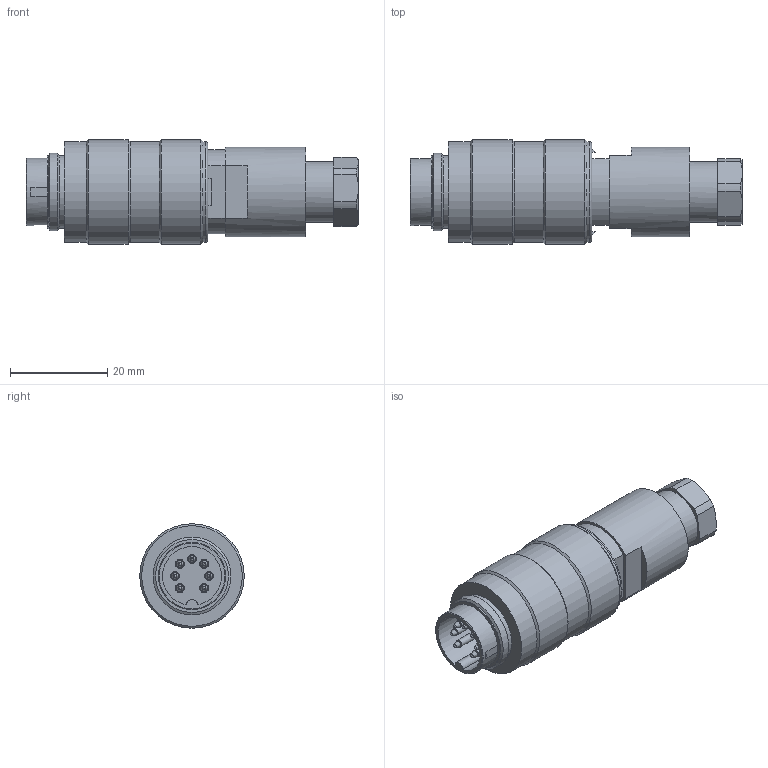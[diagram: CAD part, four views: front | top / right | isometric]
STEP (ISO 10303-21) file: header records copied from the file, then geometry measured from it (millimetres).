
FILE_DESCRIPTION(/* description */ (''),/* implementation_level */ '2;1');
FILE_NAME(/* name */ '09_0581_25_07_001_00.stp',/* time_stamp */ '2016-09-02T10:20:23+02:00',/* author */ (''),/* organization */ (''),/* preprocessor_version */ 'ST-DEVELOPER v14',/* originating_system */ 'SIEMENS PLM Software NX 8.0',/* authorisation */ '');
FILE_SCHEMA (('AUTOMOTIVE_DESIGN { 1 0 10303 214 3 1 1 1 }'));
Length unit declared in the file: millimetre
Products named in the file (1): cerl0604DBFFv470
Bounding box: 68.3 x 21.5 x 21.5 mm (x, y, z)
Volume: 17337.2 mm3; surface area: 5357.6 mm2
Topology: 1 solids, 1 shells, 110 faces, 242 edges, 150 vertices
Faces by surface type: plane 40, cylinder 28, cone 27, bspline 14, torus 1
Full cylindrical faces by diameter (mm): 1.49 x7, 12.5 x1, 13.8 x1, 15 x2, 16 x1, 18.5 x1, 20.7 x3, 21.5 x2
Entity records: 3022 total; most frequent: CARTESIAN_POINT 843, DIRECTION 462, ORIENTED_EDGE 356, AXIS2_PLACEMENT_3D 199, EDGE_LOOP 180, EDGE_CURVE 178, VERTEX_POINT 140, FACE_BOUND 132
